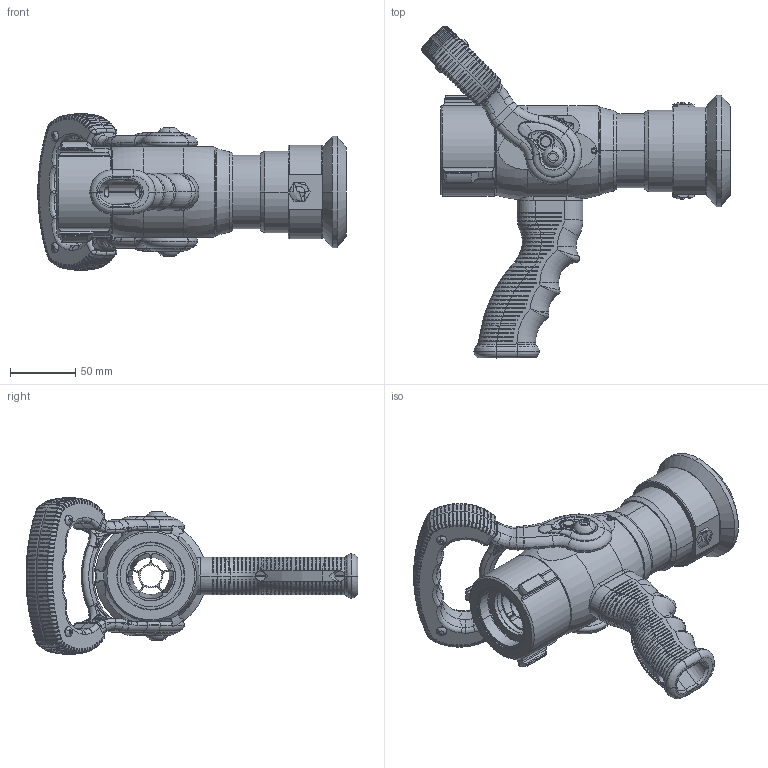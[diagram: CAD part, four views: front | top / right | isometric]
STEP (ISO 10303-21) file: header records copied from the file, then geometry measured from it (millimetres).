
FILE_DESCRIPTION (( 'STEP AP203' ), '1' );
FILE_NAME ('HVITG14.step', '2014-05-13T19:37:00', ( 'user' ), ( '' ), 'SwSTEP 2.0', 'SolidWorks 2012', '' );
FILE_SCHEMA (( 'CONFIG_CONTROL_DESIGN' ));
Length unit declared in the file: inch
Products named in the file (1): HVITG14
Bounding box: 236.61 x 254.8 x 120.41 mm (x, y, z)
Surface area: 160763.4 mm2 (no closed solid volume)
Topology: 0 solids, 32 shells, 2078 faces, 8091 edges, 5619 vertices
Faces by surface type: bspline 633, plane 594, cylinder 431, torus 332, cone 46, sphere 42
Entity records: 116552 total; most frequent: CARTESIAN_POINT 59105, ORIENTED_EDGE 13044, DIRECTION 9091, EDGE_CURVE 8068, VERTEX_POINT 5619, B_SPLINE_CURVE_WITH_KNOTS 3927, AXIS2_PLACEMENT_3D 3537, EDGE_LOOP 2127
